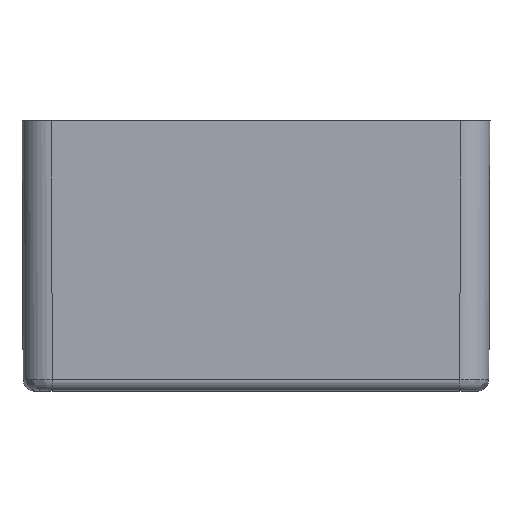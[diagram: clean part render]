
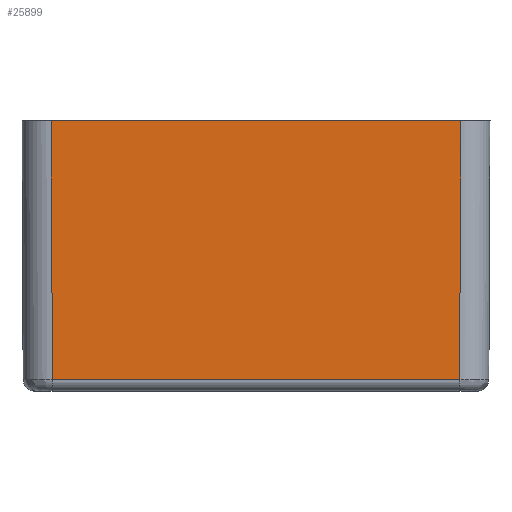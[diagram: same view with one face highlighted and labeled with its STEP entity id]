
A CAD part, front view. The second image highlights one B-rep face of the part: STEP entity #25899.
In plain terms, the highlighted planar face has unit normal (0, -1, -0.004).
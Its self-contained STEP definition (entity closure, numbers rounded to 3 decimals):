
#1486=CARTESIAN_POINT('',(35.,-75.0,0.0));
#1487=VERTEX_POINT('',#1486);
#1537=CARTESIAN_POINT('',(-35.,-75.0,0.0));
#1538=VERTEX_POINT('',#1537);
#1546=CARTESIAN_POINT('',(35.,-75.0,0.0));
#1547=DIRECTION('',(-1.0,0.0,0.0));
#1548=VECTOR('',#1547,70.);
#1549=LINE('',#1546,#1548);
#1550=EDGE_CURVE('',#1487,#1538,#1549,.T.);
#25386=CARTESIAN_POINT('',(34.807,-74.807,-44.209));
#25387=VERTEX_POINT('',#25386);
#25550=CARTESIAN_POINT('',(-34.807,-74.807,-44.209));
#25551=VERTEX_POINT('',#25550);
#25568=CARTESIAN_POINT('',(34.807,-74.807,-44.209));
#25569=DIRECTION('',(-1.0,0.0,0.0));
#25570=VECTOR('',#25569,69.614);
#25571=LINE('',#25568,#25570);
#25572=EDGE_CURVE('',#25387,#25551,#25571,.T.);
#25867=CARTESIAN_POINT('',(-34.807,-74.807,-44.209));
#25868=DIRECTION('',(-0.004,-0.004,1.));
#25869=VECTOR('',#25868,44.21);
#25870=LINE('',#25867,#25869);
#25871=EDGE_CURVE('',#25551,#1538,#25870,.T.);
#25883=CARTESIAN_POINT('',(-40.,-75.0,0.0));
#25884=DIRECTION('',(0.0,-1.,-0.004));
#25885=DIRECTION('',(-1.0,0.0,0.0));
#25886=AXIS2_PLACEMENT_3D('',#25883,#25884,#25885);
#25887=PLANE('',#25886);
#25888=ORIENTED_EDGE('',*,*,#25572,.F.);
#25889=CARTESIAN_POINT('',(35.,-75.0,0.0));
#25890=DIRECTION('',(-0.004,0.004,-1.));
#25891=VECTOR('',#25890,44.21);
#25892=LINE('',#25889,#25891);
#25893=EDGE_CURVE('',#1487,#25387,#25892,.T.);
#25894=ORIENTED_EDGE('',*,*,#25893,.F.);
#25895=ORIENTED_EDGE('',*,*,#1550,.T.);
#25896=ORIENTED_EDGE('',*,*,#25871,.F.);
#25897=EDGE_LOOP('',(#25888,#25894,#25895,#25896));
#25898=FACE_OUTER_BOUND('',#25897,.T.);
#25899=ADVANCED_FACE('',(#25898),#25887,.T.);
